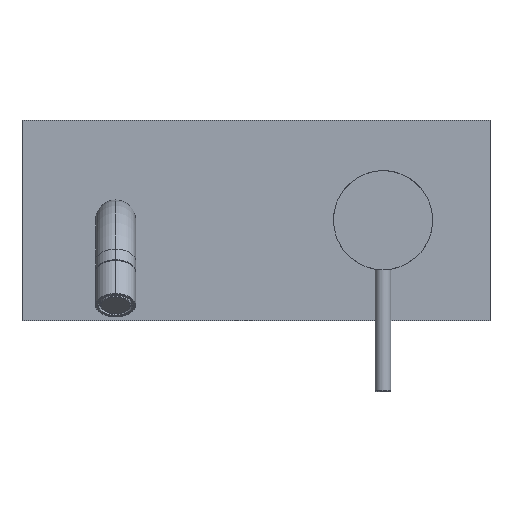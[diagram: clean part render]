
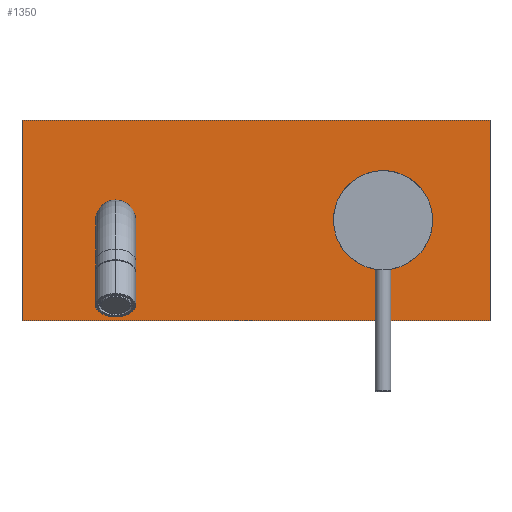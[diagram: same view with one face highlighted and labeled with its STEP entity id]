
A CAD part, top view. The second image highlights one B-rep face of the part: STEP entity #1350.
In plain terms, the highlighted planar face has unit normal (0, 0, 1).
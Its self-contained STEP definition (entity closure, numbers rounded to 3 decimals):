
#382=DIRECTION('',(-1.,0.,0.));
#383=VECTOR('',#382,210.);
#384=CARTESIAN_POINT('',(105.,-45.,0.));
#385=LINE('',#384,#383);
#386=DIRECTION('',(0.,1.,0.));
#387=VECTOR('',#386,90.);
#388=CARTESIAN_POINT('',(-105.,-45.,0.));
#389=LINE('',#388,#387);
#390=DIRECTION('',(1.,0.,0.));
#391=VECTOR('',#390,210.);
#392=CARTESIAN_POINT('',(-105.,45.,0.));
#393=LINE('',#392,#391);
#394=DIRECTION('',(0.,-1.,0.));
#395=VECTOR('',#394,90.);
#396=CARTESIAN_POINT('',(105.,45.,0.));
#397=LINE('',#396,#395);
#398=CARTESIAN_POINT('',(57.,0.,0.));
#399=DIRECTION('',(0.,0.,1.));
#400=DIRECTION('',(0.,1.,0.));
#401=AXIS2_PLACEMENT_3D('',#398,#399,#400);
#403=CARTESIAN_POINT('',(57.,0.,0.));
#404=DIRECTION('',(0.,0.,1.));
#405=DIRECTION('',(0.,-1.,0.));
#406=AXIS2_PLACEMENT_3D('',#403,#404,#405);
#408=CARTESIAN_POINT('',(-63.,0.,0.));
#409=DIRECTION('',(0.,0.,1.));
#410=DIRECTION('',(0.,1.,0.));
#411=AXIS2_PLACEMENT_3D('',#408,#409,#410);
#413=CARTESIAN_POINT('',(-63.,0.,0.));
#414=DIRECTION('',(0.,0.,1.));
#415=DIRECTION('',(0.,-1.,0.));
#416=AXIS2_PLACEMENT_3D('',#413,#414,#415);
#773=CARTESIAN_POINT('',(105.,-45.,0.));
#774=CARTESIAN_POINT('',(-105.,-45.,0.));
#775=VERTEX_POINT('',#773);
#776=VERTEX_POINT('',#774);
#777=CARTESIAN_POINT('',(-105.,45.,0.));
#778=VERTEX_POINT('',#777);
#779=CARTESIAN_POINT('',(105.,45.,0.));
#780=VERTEX_POINT('',#779);
#797=CARTESIAN_POINT('',(57.,20.5,0.));
#798=CARTESIAN_POINT('',(57.,-20.5,0.));
#799=VERTEX_POINT('',#797);
#800=VERTEX_POINT('',#798);
#865=CARTESIAN_POINT('',(-63.,8.8,0.));
#866=CARTESIAN_POINT('',(-63.,-8.8,0.));
#867=VERTEX_POINT('',#865);
#868=VERTEX_POINT('',#866);
#1324=CARTESIAN_POINT('',(0.,0.,0.));
#1325=DIRECTION('',(0.,0.,-1.));
#1326=DIRECTION('',(0.,1.,0.));
#1327=AXIS2_PLACEMENT_3D('',#1324,#1325,#1326);
#1328=PLANE('',#1327);
#1330=ORIENTED_EDGE('',*,*,#1329,.T.);
#1332=ORIENTED_EDGE('',*,*,#1331,.T.);
#1334=ORIENTED_EDGE('',*,*,#1333,.T.);
#1336=ORIENTED_EDGE('',*,*,#1335,.T.);
#1337=EDGE_LOOP('',(#1330,#1332,#1334,#1336));
#1338=FACE_OUTER_BOUND('',#1337,.F.);
#1339=ORIENTED_EDGE('',*,*,#1314,.T.);
#1341=ORIENTED_EDGE('',*,*,#1340,.T.);
#1342=EDGE_LOOP('',(#1339,#1341));
#1343=FACE_BOUND('',#1342,.F.);
#1345=ORIENTED_EDGE('',*,*,#1344,.T.);
#1347=ORIENTED_EDGE('',*,*,#1346,.T.);
#1348=EDGE_LOOP('',(#1345,#1347));
#1349=FACE_BOUND('',#1348,.F.);
#1350=ADVANCED_FACE('',(#1338,#1343,#1349),#1328,.F.);
#402=CIRCLE('',#401,20.5);
#407=CIRCLE('',#406,20.5);
#412=CIRCLE('',#411,8.8);
#417=CIRCLE('',#416,8.8);
#1314=EDGE_CURVE('',#799,#800,#402,.T.);
#1329=EDGE_CURVE('',#775,#776,#385,.T.);
#1331=EDGE_CURVE('',#776,#778,#389,.T.);
#1333=EDGE_CURVE('',#778,#780,#393,.T.);
#1335=EDGE_CURVE('',#780,#775,#397,.T.);
#1340=EDGE_CURVE('',#800,#799,#407,.T.);
#1344=EDGE_CURVE('',#867,#868,#412,.T.);
#1346=EDGE_CURVE('',#868,#867,#417,.T.);
